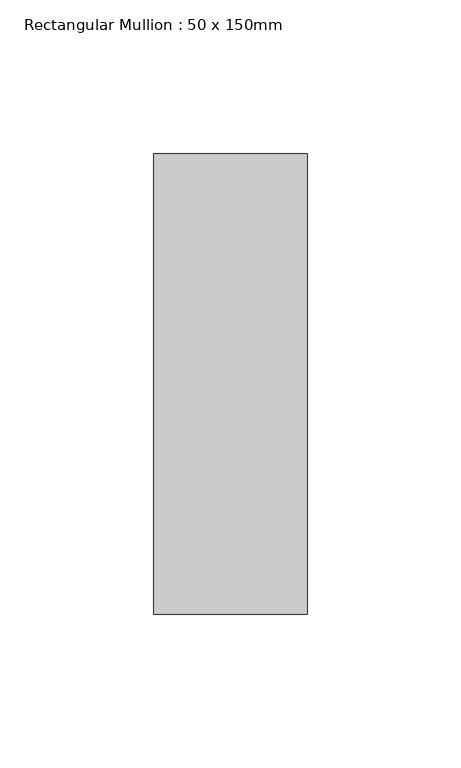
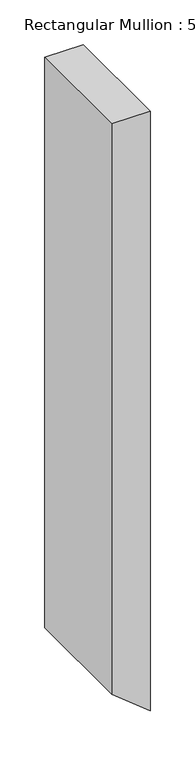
"""IFC4 building model written with IfcOpenShell, lengths in millimetres: member geometry, Rectangular Mullion : 50 x 150mm."""

from ifc_helpers import new_model, si_unit, frame, origin, place, context, project, spatial, polyline, outline, extrude, source, transform, mapped, element, save


def rectangular_mullion_50_x_150mm_8565d8bc(model_context):
    return source(origin(), model_context, "Body", "SweptSolid", [
        extrude(outline(polyline([(0.0, 0.0), (0.0, -50.0), (-780.1587593, -50.0), (-820.1299412, 0.0), (0.0, 0.0)])), frame((0.0, -75.0, 0.0), z_axis=(0.0, 1.0, 0.0), x_axis=(0.0, 0.0, 1.0)), (0.0, 0.0, 1.0), 150.0),
    ])


if __name__ == "__main__":
    model = new_model("IFC4")
    model_context = context("Model", 3, world=origin())
    ifc_project = project(units=[si_unit("LENGTHUNIT", "METRE", prefix="MILLI")], contexts=[model_context])
    site = spatial("IfcSite", under=ifc_project)
    building = spatial("IfcBuilding", under=site)
    placement = place(None, origin())
    rectangular_mullion_50_x_150mm_shape = rectangular_mullion_50_x_150mm_8565d8bc(model_context)
    element("IfcMember", 1, ObjectType="Rectangular Mullion : 50 x 150mm", at=placement, inside=building, context=model_context, shape_type="MappedRepresentation", body=[
        mapped(rectangular_mullion_50_x_150mm_shape, transform((0.0, 0.0, 0.0), x_axis=(1.0, 0.0, 0.0), y_axis=(0.0, 1.0, 0.0), z_axis=(0.0, 0.0, 1.0))),
    ])
    save(model, "model.ifc")
